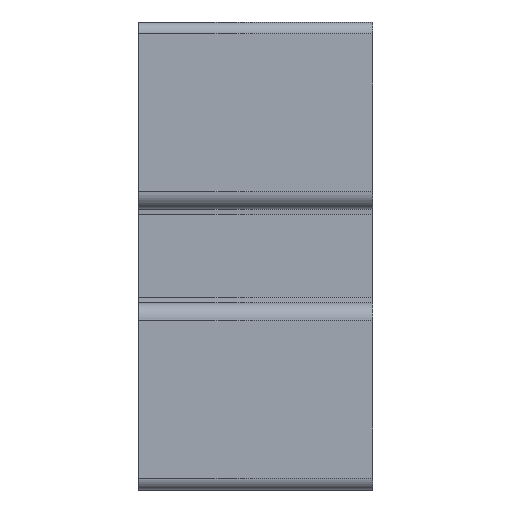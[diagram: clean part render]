
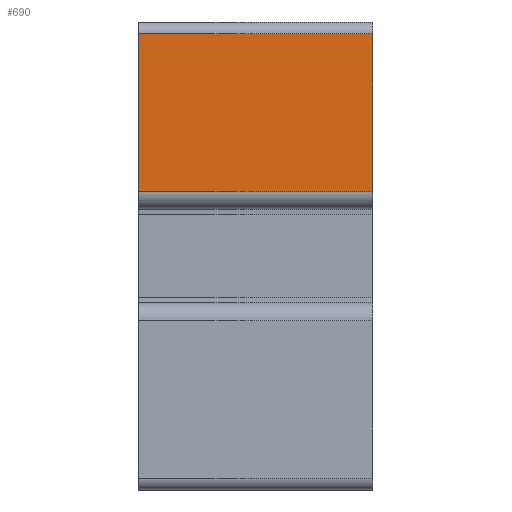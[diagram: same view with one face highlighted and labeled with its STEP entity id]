
A CAD part, left-side view. The second image highlights one B-rep face of the part: STEP entity #690.
In plain terms, the highlighted planar face has unit normal (-1, 0, 0).
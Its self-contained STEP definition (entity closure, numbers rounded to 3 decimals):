
#690=ADVANCED_FACE('',(#1406),#1407,.T.);
#1406=FACE_OUTER_BOUND('',#2149,.T.);
#1407=PLANE('',#2150);
#2149=EDGE_LOOP('',(#4105,#4106,#4107,#4108));
#2150=AXIS2_PLACEMENT_3D('',#4109,#4110,#4111);
#4105=ORIENTED_EDGE('',*,*,#5451,.T.);
#4106=ORIENTED_EDGE('',*,*,#5480,.T.);
#4107=ORIENTED_EDGE('',*,*,#5481,.F.);
#4108=ORIENTED_EDGE('',*,*,#5050,.F.);
#4109=CARTESIAN_POINT('',(-40.0,10.0,0.0));
#4110=DIRECTION('',(-1.0,0.0,0.0));
#4111=DIRECTION('',(0.0,0.0,-1.0));
#5050=EDGE_CURVE('',#6229,#6231,#6232,.T.);
#5451=EDGE_CURVE('',#6229,#6825,#6828,.T.);
#5480=EDGE_CURVE('',#6825,#6865,#6866,.T.);
#5481=EDGE_CURVE('',#6231,#6865,#6867,.T.);
#6229=VERTEX_POINT('',#7847);
#6231=VERTEX_POINT('',#7849);
#6232=LINE('',#7850,#7851);
#6825=VERTEX_POINT('',#8644);
#6828=LINE('',#8647,#8648);
#6865=VERTEX_POINT('',#8699);
#6866=LINE('',#8700,#8701);
#6867=LINE('',#8702,#8703);
#7847=CARTESIAN_POINT('',(-40.,10.0,5.5));
#7849=CARTESIAN_POINT('',(-40.0,10.0,19.0));
#7850=CARTESIAN_POINT('',(-40.0,10.0,-19.0));
#7851=VECTOR('',#9457,1.0);
#8644=CARTESIAN_POINT('',(-40.,-10.0,5.5));
#8647=CARTESIAN_POINT('',(-40.0,10.0,5.5));
#8648=VECTOR('',#9949,1.0);
#8699=CARTESIAN_POINT('',(-40.0,-10.0,19.0));
#8700=CARTESIAN_POINT('',(-40.0,-10.0,-19.0));
#8701=VECTOR('',#9976,1.0);
#8702=CARTESIAN_POINT('',(-40.0,10.0,19.0));
#8703=VECTOR('',#9977,1.0);
#9457=DIRECTION('',(0.0,0.0,1.0));
#9949=DIRECTION('',(0.0,-1.0,0.0));
#9976=DIRECTION('',(0.0,0.0,1.0));
#9977=DIRECTION('',(0.0,-1.0,0.0));
